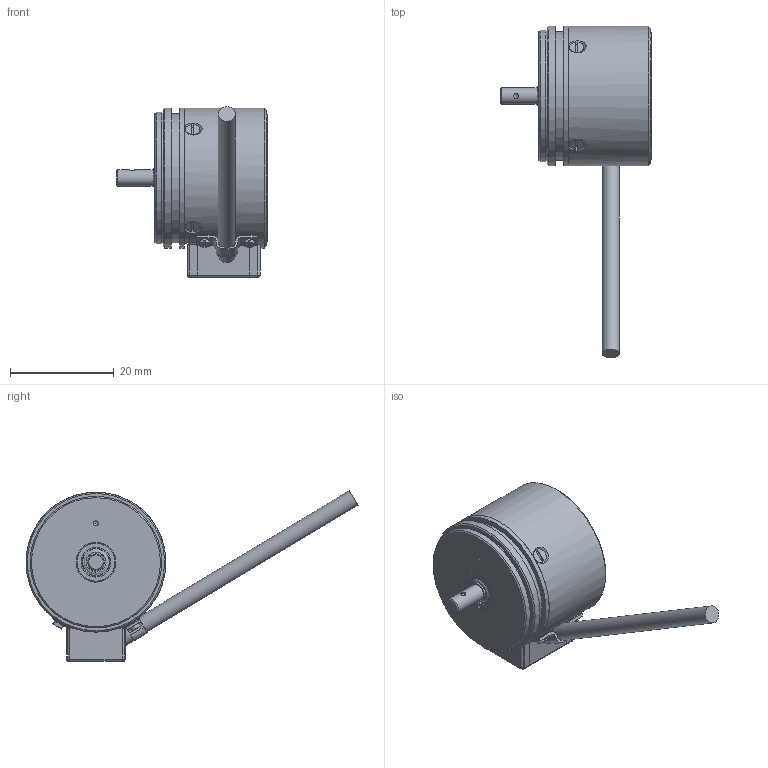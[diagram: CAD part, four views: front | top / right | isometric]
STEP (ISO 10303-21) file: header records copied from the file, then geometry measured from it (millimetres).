
FILE_DESCRIPTION(/* description */ ('Unknown'),/* implementation_level */ '2;1');
FILE_NAME(/* name */ 'P1514-1812',/* time_stamp */ '2025-07-17T23:55:49+02:00',/* author */ ('Unknown'),/* organization */ ('Unknown'),/* preprocessor_version */ 'ST-DEVELOPER v19.4',/* originating_system */ 'Solid Edge',/* authorisation */ 'Unknown');
FILE_SCHEMA (('AUTOMOTIVE_DESIGN {1 0 10303 214 3 1 1}'));
Length unit declared in the file: millimetre
Products named in the file (40): P1514-1812; P1514-1808-12_oa_0; 731257_oa_1; 731257_oa_2; P1514-1808-27_oa_3; 744040_oa_4; P1514-1808-26_oa_5; 744040_oa_6; 744043_oa_7; P1514-1808-04_oa_8; P1514-1808-23_oa_9; 652220_oa_10; P1514-1808-32_oa_11; P1514-1808-14_oa_12; P1514-1812-01_oa_13; P1514-1808-37_oa_14; P1514-1812-02_oa_15; 652178_oa_16; 652178_oa_17; 652178_oa_18; P1514-1808-29_oa_19; P1514-1808-28_oa_20; P1514-1808-29_oa_21; 660002_oa_22; P1514-1812-03; 652178_oa_23; P1514-1812-05_oa_24; P1514-1808-29_oa_25; P1514-1808-07_oa_26; P1514-1808-29_oa_27; P1514-1812-04_oa_28; P1514-1808-24_oa_29; P1514-1808-14_oa_30; 662708_oa_31; P1514-1808-29_oa_32; 652178_oa_33; P1514-1808-44; 652220_oa_34; 652220_oa_35; 652220_oa_36
Assembly tree (39 placements, depth 2):
  P1514-1812
    P1514-1808-12_oa_0
    731257_oa_1
    731257_oa_2
    P1514-1808-27_oa_3
    744040_oa_4
    P1514-1808-26_oa_5
    744040_oa_6
    744043_oa_7
    P1514-1808-04_oa_8
    P1514-1808-23_oa_9
    652220_oa_10
    P1514-1808-32_oa_11
    P1514-1808-14_oa_12
    P1514-1812-01_oa_13
    P1514-1808-37_oa_14
    P1514-1812-02_oa_15
    652178_oa_16
    652178_oa_17
    652178_oa_18
    P1514-1808-29_oa_19
    P1514-1808-28_oa_20
    P1514-1808-29_oa_21
    660002_oa_22
    P1514-1812-03
    652178_oa_23
    P1514-1812-05_oa_24
    P1514-1808-29_oa_25
    P1514-1808-07_oa_26
    P1514-1808-29_oa_27
    P1514-1812-04_oa_28
    P1514-1808-24_oa_29
    P1514-1808-14_oa_30
    662708_oa_31
    P1514-1808-29_oa_32
    652178_oa_33
    P1514-1808-44
    652220_oa_34
    652220_oa_35
    652220_oa_36
Bounding box: 29.05 x 64.06 x 32.96 mm (x, y, z)
Volume: 2885.4 mm3; surface area: 8734.8 mm2
Topology: 23 solids, 23 shells, 796 faces, 2015 edges, 1331 vertices
Faces by surface type: plane 524, cylinder 130, bspline 115, cone 25, torus 2
Full cylindrical faces by diameter (mm): 0.729 x4, 1 x6, 1.3 x8, 1.6 x5, 1.8 x4, 2 x9, 2.5 x1, 3.175 x3, 3.3 x1, 3.5 x1, 3.775 x1, 3.823 x1, 4.162 x1, 5.354 x1, 5.362 x1, 5.75 x2, 7.518 x1, 7.7 x1, 24 x1, 24.5 x1, 24.9 x1, 25.1 x1, 25.2 x2, 25.4 x1, 27 x3
Entity records: 31932 total; most frequent: CARTESIAN_POINT 8876, ORIENTED_EDGE 3808, DIRECTION 3319, EDGE_CURVE 1904, LINE 1337, VECTOR 1337, VERTEX_POINT 1305, AXIS2_PLACEMENT_3D 991
